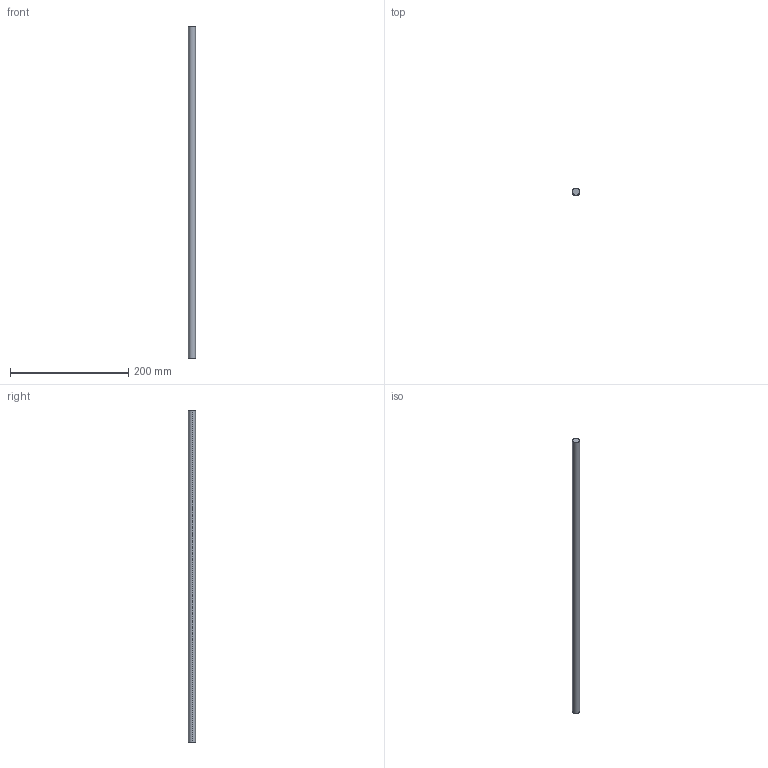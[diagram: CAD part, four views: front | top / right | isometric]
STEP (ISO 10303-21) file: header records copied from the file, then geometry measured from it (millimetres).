
FILE_DESCRIPTION (( 'STEP AP214' ), '1' );
FILE_NAME ('Magic Reling längs - 600.step', '2010-09-07T14:56:18', ( 'grass' ), ( '' ), 'SwSTEP 2.0', 'SolidWorks 2010', '' );
FILE_SCHEMA (( 'AUTOMOTIVE_DESIGN' ));
Length unit declared in the file: millimetre
Products named in the file (1): Magic Reling längs - 600
Bounding box: 12 x 12 x 562 mm (x, y, z)
Volume: 63560.7 mm3; surface area: 21413.1 mm2
Topology: 1 solids, 1 shells, 4 faces, 6 edges, 4 vertices
Faces by surface type: cylinder 2, plane 2
Entity records: 128 total; most frequent: DIRECTION 20, CARTESIAN_POINT 15, ORIENTED_EDGE 12, AXIS2_PLACEMENT_3D 9, EDGE_CURVE 6, ADVANCED_FACE 4, EDGE_LOOP 4, CIRCLE 4
